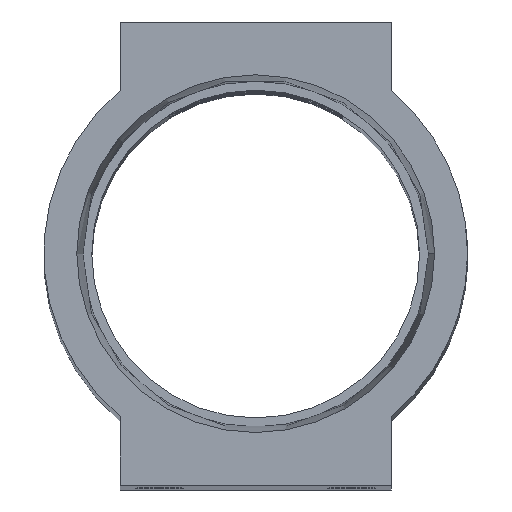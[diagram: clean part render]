
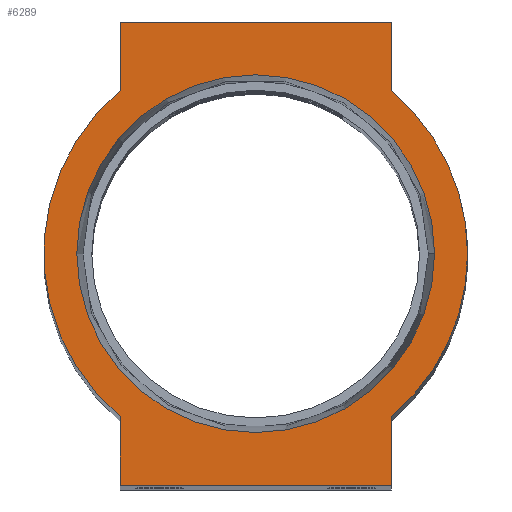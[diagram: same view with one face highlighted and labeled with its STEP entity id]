
A CAD part, top view. The second image highlights one B-rep face of the part: STEP entity #6289.
In plain terms, the highlighted planar face has unit normal (0, 0, 1).
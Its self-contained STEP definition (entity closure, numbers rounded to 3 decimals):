
#43 = LINE ( 'NONE', #9419, #3809 ) ;
#69 = AXIS2_PLACEMENT_3D ( 'NONE', #5882, #11597, #233 ) ;
#166 = VECTOR ( 'NONE', #8925, 1000. ) ;
#178 = CARTESIAN_POINT ( 'NONE',  ( -12., 20.5, 0. ) ) ;
#233 = DIRECTION ( 'NONE',  ( 1., 0., 0. ) ) ;
#419 = EDGE_CURVE ( 'NONE', #8186, #11662, #11203, .T. ) ;
#472 = CARTESIAN_POINT ( 'NONE',  ( -12., -20.5, 0. ) ) ;
#734 = CARTESIAN_POINT ( 'NONE',  ( -12., 14.407, 0. ) ) ;
#799 = DIRECTION ( 'NONE',  ( 1., 0., 0. ) ) ;
#902 = ORIENTED_EDGE ( 'NONE', *, *, #12008, .T. ) ;
#933 = EDGE_CURVE ( 'NONE', #5583, #7426, #2990, .T. ) ;
#943 = ORIENTED_EDGE ( 'NONE', *, *, #9362, .T. ) ;
#1394 = DIRECTION ( 'NONE',  ( 1., 0., 0. ) ) ;
#1414 = DIRECTION ( 'NONE',  ( 0., 0., 1. ) ) ;
#1619 = CARTESIAN_POINT ( 'NONE',  ( 12., 20.5, 0. ) ) ;
#1723 = ORIENTED_EDGE ( 'NONE', *, *, #6679, .T. ) ;
#1743 = CIRCLE ( 'NONE', #2512, 15.827 ) ;
#1996 = DIRECTION ( 'NONE',  ( 0., -1., 0. ) ) ;
#2038 = EDGE_CURVE ( 'NONE', #4233, #5583, #6160, .T. ) ;
#2314 = FACE_OUTER_BOUND ( 'NONE', #8776, .T. ) ;
#2408 = CARTESIAN_POINT ( 'NONE',  ( 18.75, 0., 0. ) ) ;
#2430 = DIRECTION ( 'NONE',  ( 1., 0., 0. ) ) ;
#2505 = EDGE_CURVE ( 'NONE', #10554, #8462, #43, .T. ) ;
#2512 = AXIS2_PLACEMENT_3D ( 'NONE', #6208, #1414, #11794 ) ;
#2740 = CARTESIAN_POINT ( 'NONE',  ( -15.827, 0., 0. ) ) ;
#2990 = CIRCLE ( 'NONE', #10393, 18.75 ) ;
#3103 = AXIS2_PLACEMENT_3D ( 'NONE', #8708, #9739, #2430 ) ;
#3137 = ORIENTED_EDGE ( 'NONE', *, *, #2038, .T. ) ;
#3170 = ORIENTED_EDGE ( 'NONE', *, *, #4560, .T. ) ;
#3448 = CARTESIAN_POINT ( 'NONE',  ( 12., -14.407, 0. ) ) ;
#3518 = DIRECTION ( 'NONE',  ( 0., 0., 1. ) ) ;
#3537 = VERTEX_POINT ( 'NONE', #1619 ) ;
#3565 = DIRECTION ( 'NONE',  ( 0., 0., 1. ) ) ;
#3809 = VECTOR ( 'NONE', #1996, 1000. ) ;
#3982 = EDGE_CURVE ( 'NONE', #8462, #4233, #4954, .T. ) ;
#4040 = VECTOR ( 'NONE', #1394, 1000. ) ;
#4074 = CIRCLE ( 'NONE', #4277, 18.75 ) ;
#4233 = VERTEX_POINT ( 'NONE', #4762 ) ;
#4277 = AXIS2_PLACEMENT_3D ( 'NONE', #11923, #3518, #9262 ) ;
#4560 = EDGE_CURVE ( 'NONE', #6786, #5465, #5834, .T. ) ;
#4632 = ORIENTED_EDGE ( 'NONE', *, *, #3982, .T. ) ;
#4762 = CARTESIAN_POINT ( 'NONE',  ( 12., -20.5, 0. ) ) ;
#4881 = EDGE_CURVE ( 'NONE', #8484, #3537, #12004, .T. ) ;
#4911 = CARTESIAN_POINT ( 'NONE',  ( -12., 20.5, 0. ) ) ;
#4954 = LINE ( 'NONE', #472, #4040 ) ;
#5465 = VERTEX_POINT ( 'NONE', #734 ) ;
#5553 = EDGE_CURVE ( 'NONE', #11662, #8186, #1743, .T. ) ;
#5583 = VERTEX_POINT ( 'NONE', #3448 ) ;
#5834 = LINE ( 'NONE', #4911, #9918 ) ;
#5882 = CARTESIAN_POINT ( 'NONE',  ( 0., 0., 0. ) ) ;
#6160 = LINE ( 'NONE', #8048, #11200 ) ;
#6208 = CARTESIAN_POINT ( 'NONE',  ( 0., 0., 0. ) ) ;
#6289 = ADVANCED_FACE ( 'NONE', ( #10663, #2314 ), #8768, .T. ) ;
#6679 = EDGE_CURVE ( 'NONE', #5465, #10554, #4074, .T. ) ;
#6786 = VERTEX_POINT ( 'NONE', #178 ) ;
#6854 = CIRCLE ( 'NONE', #69, 18.75 ) ;
#7278 = DIRECTION ( 'NONE',  ( 1., 0., 0. ) ) ;
#7328 = ORIENTED_EDGE ( 'NONE', *, *, #4881, .T. ) ;
#7426 = VERTEX_POINT ( 'NONE', #2408 ) ;
#7624 = ORIENTED_EDGE ( 'NONE', *, *, #419, .F. ) ;
#7734 = ORIENTED_EDGE ( 'NONE', *, *, #2505, .T. ) ;
#7895 = CARTESIAN_POINT ( 'NONE',  ( -12., 20.5, 0. ) ) ;
#7919 = CARTESIAN_POINT ( 'NONE',  ( -12., -14.407, 0. ) ) ;
#8048 = CARTESIAN_POINT ( 'NONE',  ( 12., -20.5, 0. ) ) ;
#8103 = CARTESIAN_POINT ( 'NONE',  ( 0., 0., 0. ) ) ;
#8186 = VERTEX_POINT ( 'NONE', #2740 ) ;
#8241 = CARTESIAN_POINT ( 'NONE',  ( 15.827, 0., 0. ) ) ;
#8457 = CARTESIAN_POINT ( 'NONE',  ( 12., 14.407, 0. ) ) ;
#8462 = VERTEX_POINT ( 'NONE', #11968 ) ;
#8484 = VERTEX_POINT ( 'NONE', #8457 ) ;
#8708 = CARTESIAN_POINT ( 'NONE',  ( 0., 0., 0. ) ) ;
#8714 = DIRECTION ( 'NONE',  ( 0., -1., 0. ) ) ;
#8768 = PLANE ( 'NONE',  #3103 ) ;
#8776 = EDGE_LOOP ( 'NONE', ( #7328, #943, #3170, #1723, #7734, #4632, #3137, #12100, #902 ) ) ;
#8829 = ORIENTED_EDGE ( 'NONE', *, *, #5553, .F. ) ;
#8925 = DIRECTION ( 'NONE',  ( 0., 1., 0. ) ) ;
#9069 = DIRECTION ( 'NONE',  ( -1., 0., 0. ) ) ;
#9262 = DIRECTION ( 'NONE',  ( 1., 0., 0. ) ) ;
#9362 = EDGE_CURVE ( 'NONE', #3537, #6786, #10913, .T. ) ;
#9419 = CARTESIAN_POINT ( 'NONE',  ( -12., -20.5, 0. ) ) ;
#9739 = DIRECTION ( 'NONE',  ( 0., 0., 1. ) ) ;
#9918 = VECTOR ( 'NONE', #8714, 1000. ) ;
#10000 = DIRECTION ( 'NONE',  ( 0., 0., 1. ) ) ;
#10393 = AXIS2_PLACEMENT_3D ( 'NONE', #12030, #3565, #7278 ) ;
#10554 = VERTEX_POINT ( 'NONE', #7919 ) ;
#10663 = FACE_BOUND ( 'NONE', #11426, .T. ) ;
#10913 = LINE ( 'NONE', #7895, #11915 ) ;
#10945 = DIRECTION ( 'NONE',  ( 0., 1., 0. ) ) ;
#11200 = VECTOR ( 'NONE', #10945, 1000. ) ;
#11203 = CIRCLE ( 'NONE', #11599, 15.827 ) ;
#11426 = EDGE_LOOP ( 'NONE', ( #8829, #7624 ) ) ;
#11597 = DIRECTION ( 'NONE',  ( 0., 0., 1. ) ) ;
#11599 = AXIS2_PLACEMENT_3D ( 'NONE', #8103, #10000, #799 ) ;
#11662 = VERTEX_POINT ( 'NONE', #8241 ) ;
#11794 = DIRECTION ( 'NONE',  ( 1., 0., 0. ) ) ;
#11881 = CARTESIAN_POINT ( 'NONE',  ( 12., 20.5, 0. ) ) ;
#11915 = VECTOR ( 'NONE', #9069, 1000. ) ;
#11923 = CARTESIAN_POINT ( 'NONE',  ( 0., 0., 0. ) ) ;
#11968 = CARTESIAN_POINT ( 'NONE',  ( -12., -20.5, 0. ) ) ;
#12004 = LINE ( 'NONE', #11881, #166 ) ;
#12008 = EDGE_CURVE ( 'NONE', #7426, #8484, #6854, .T. ) ;
#12030 = CARTESIAN_POINT ( 'NONE',  ( 0., 0., 0. ) ) ;
#12100 = ORIENTED_EDGE ( 'NONE', *, *, #933, .T. ) ;
